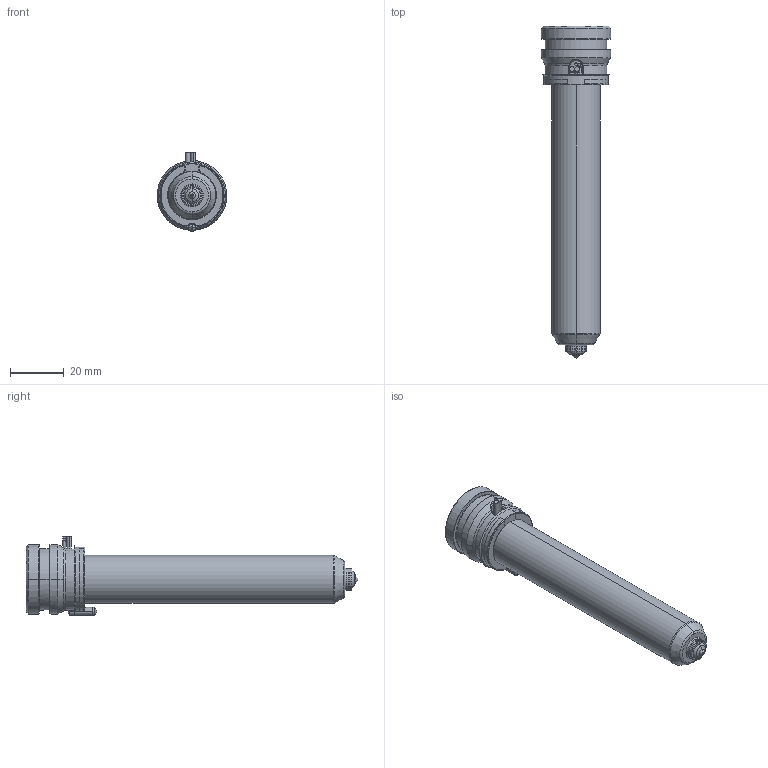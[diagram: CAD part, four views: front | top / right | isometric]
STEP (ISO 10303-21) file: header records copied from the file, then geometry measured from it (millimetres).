
FILE_DESCRIPTION((''),'2;1');
FILE_NAME('TH18106-A-1-PK-JG','2023-12-14T',('umhib'),('Thermoplay S.p.A.'),'PRO/ENGINEER BY PARAMETRIC TECHNOLOGY CORPORATION, 2017170','PRO/ENGINEER BY PARAMETRIC TECHNOLOGY CORPORATION, 2017170','');
FILE_SCHEMA(('CONFIG_CONTROL_DESIGN'));
Length unit declared in the file: millimetre
Products named in the file (1): TH18106-A-1-PK-JG
Bounding box: 26 x 124 x 29.5 mm (x, y, z)
Volume: 25894.4 mm3; surface area: 18815.2 mm2
Topology: 1 solids, 2 shells, 396 faces, 1032 edges, 641 vertices
Faces by surface type: cylinder 151, plane 85, cone 66, torus 56, bspline 24, sphere 12, extrusion 2
Entity records: 18004 total; most frequent: CARTESIAN_POINT 6095, ORIENTED_EDGE 2040, DIRECTION 2021, EDGE_CURVE 1022, AXIS2_PLACEMENT_3D 811, VERTEX_POINT 641, CIRCLE 440, EDGE_LOOP 416
